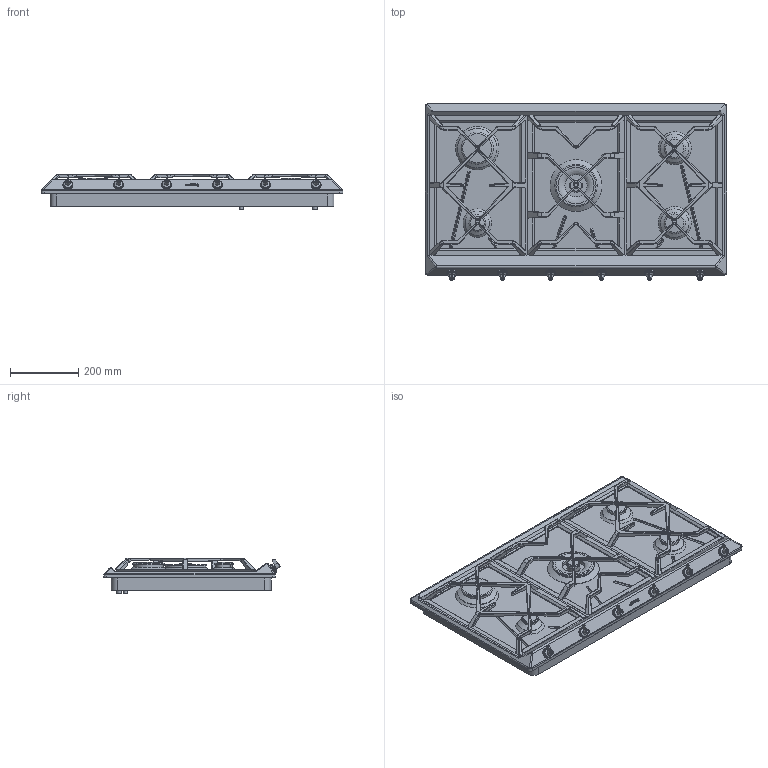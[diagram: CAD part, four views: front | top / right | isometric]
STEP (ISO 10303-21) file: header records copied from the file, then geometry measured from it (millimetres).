
FILE_DESCRIPTION(/* description */ (''),/* implementation_level */ '2;1');
FILE_NAME(/* name */ 'piano srv596gk6.stp',/* time_stamp */ '2019-02-12T14:19:41+01:00',/* author */ (''),/* organization */ (''),/* preprocessor_version */ 'ST-DEVELOPER v16',/* originating_system */ 'SIEMENS PLM Software NX 11.0',/* authorisation */ '');
FILE_SCHEMA (('AUTOMOTIVE_DESIGN { 1 0 10303 214 3 1 1 1 }'));
Length unit declared in the file: millimetre
Products named in the file (1): gobb0AC4B270sybx
Bounding box: 886 x 518.24 x 105.65 mm (x, y, z)
Volume: 23235464.2 mm3; surface area: 2494582.1 mm2
Topology: 38 solids, 38 shells, 1237 faces, 2955 edges, 1786 vertices
Faces by surface type: plane 555, cylinder 416, bspline 100, torus 94, cone 33, sphere 28, extrusion 11
Full cylindrical faces by diameter (mm): 3.37 x6, 6 x6, 8 x6, 9.8 x12, 10 x7, 13.5 x6, 14 x2, 22.3 x1, 26 x1, 27 x6, 29 x6, 38 x1, 42 x1, 43 x1, 55 x2, 56 x2, 65.6 x1, 70.5 x1, 83 x2, 87 x1, 88 x1, 111 x1, 113.5 x1, 115 x1, 122.009 x1, 152 x1
Entity records: 36091 total; most frequent: CARTESIAN_POINT 7683, DIRECTION 6130, ORIENTED_EDGE 5548, EDGE_CURVE 2774, AXIS2_PLACEMENT_3D 2321, VERTEX_POINT 1756, VECTOR 1488, LINE 1477
